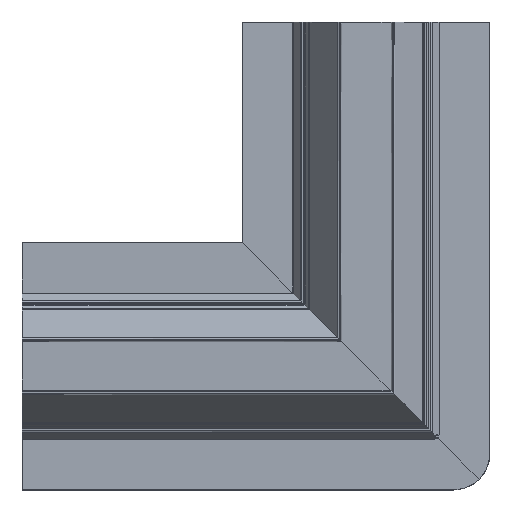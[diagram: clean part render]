
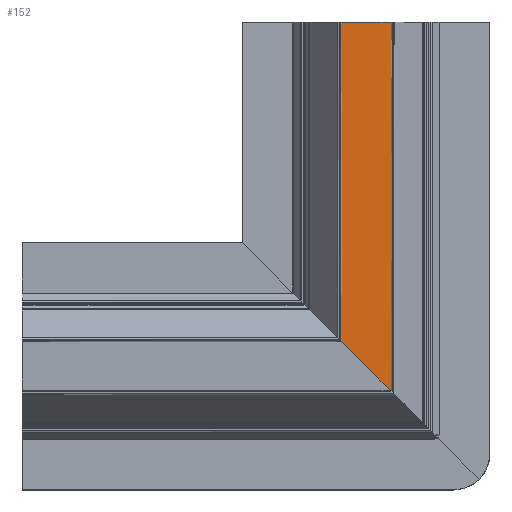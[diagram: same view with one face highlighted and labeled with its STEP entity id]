
A CAD part, top view. The second image highlights one B-rep face of the part: STEP entity #152.
In plain terms, the highlighted free-form (B-spline) face has degree [1, 1] with [2, 2] control points.
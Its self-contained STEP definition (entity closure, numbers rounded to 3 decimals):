
#152=ADVANCED_FACE('',(#328),#5574,.T.);
#328=FACE_OUTER_BOUND('',#504,.T.);
#504=EDGE_LOOP('',(#1228,#1229,#1230,#1231));
#1228=ORIENTED_EDGE('',*,*,#4946,.F.);
#1229=ORIENTED_EDGE('',*,*,#4719,.F.);
#1230=ORIENTED_EDGE('',*,*,#4947,.T.);
#1231=ORIENTED_EDGE('',*,*,#4823,.F.);
#1602=PCURVE('',#5515,#2458);
#1772=PCURVE('',#5535,#2628);
#2082=PCURVE('',#5573,#2938);
#2084=PCURVE('',#5574,#2940);
#2085=PCURVE('',#5574,#2941);
#2086=PCURVE('',#5574,#2942);
#2087=PCURVE('',#5574,#2943);
#2088=PCURVE('',#5575,#2944);
#2458=DEFINITIONAL_REPRESENTATION('',(#5184),#10737);
#2628=DEFINITIONAL_REPRESENTATION('',(#3503),#10737);
#2938=DEFINITIONAL_REPRESENTATION('',(#3923),#10737);
#2940=DEFINITIONAL_REPRESENTATION('',(#3925),#10737);
#2941=DEFINITIONAL_REPRESENTATION('',(#3926),#10737);
#2942=DEFINITIONAL_REPRESENTATION('',(#3928),#10737);
#2943=DEFINITIONAL_REPRESENTATION('',(#3929),#10737);
#2944=DEFINITIONAL_REPRESENTATION('',(#3930),#10737);
#3277=B_SPLINE_CURVE_WITH_KNOTS('',1,(#8043,#8044),.UNSPECIFIED.,.F.,.F.,
(2,2),(394.678,458.359),.UNSPECIFIED.);
#3502=B_SPLINE_CURVE_WITH_KNOTS('',1,(#8874,#8875),.UNSPECIFIED.,.F.,.F.,
(2,2),(207.782,261.28),.UNSPECIFIED.);
#3503=B_SPLINE_CURVE_WITH_KNOTS('',1,(#8876,#8877),.UNSPECIFIED.,.F.,.F.,
(2,2),(207.782,261.28),.UNSPECIFIED.);
#3922=B_SPLINE_CURVE_WITH_KNOTS('',1,(#10137,#10138),.UNSPECIFIED.,.F.,
 .F.,(2,2),(1462.8,1775.84),.UNSPECIFIED.);
#3923=B_SPLINE_CURVE_WITH_KNOTS('',1,(#10139,#10140),.UNSPECIFIED.,.F.,
 .F.,(2,2),(1462.8,1775.84),.UNSPECIFIED.);
#3925=B_SPLINE_CURVE_WITH_KNOTS('',1,(#10145,#10146),.UNSPECIFIED.,.F.,
 .F.,(2,2),(1462.8,1775.84),.UNSPECIFIED.);
#3926=B_SPLINE_CURVE_WITH_KNOTS('',1,(#10147,#10148),.UNSPECIFIED.,.F.,
 .F.,(2,2),(394.678,458.359),.UNSPECIFIED.);
#3927=B_SPLINE_CURVE_WITH_KNOTS('',1,(#10149,#10150),.UNSPECIFIED.,.F.,
 .F.,(2,2),(1462.8,1712.16),.UNSPECIFIED.);
#3928=B_SPLINE_CURVE_WITH_KNOTS('',1,(#10151,#10152),.UNSPECIFIED.,.F.,
 .F.,(2,2),(1462.8,1712.16),.UNSPECIFIED.);
#3929=B_SPLINE_CURVE_WITH_KNOTS('',1,(#10153,#10154),.UNSPECIFIED.,.F.,
 .F.,(2,2),(207.782,261.28),.UNSPECIFIED.);
#3930=B_SPLINE_CURVE_WITH_KNOTS('',1,(#10155,#10156),.UNSPECIFIED.,.F.,
 .F.,(2,2),(1462.8,1712.16),.UNSPECIFIED.);
#4291=SURFACE_CURVE('',#3277,(#1602,#2085),.PCURVE_S1.);
#4395=SURFACE_CURVE('',#3502,(#1772,#2087),.PCURVE_S1.);
#4518=SURFACE_CURVE('',#3922,(#2082,#2084),.PCURVE_S1.);
#4519=SURFACE_CURVE('',#3927,(#2086,#2088),.PCURVE_S1.);
#4719=EDGE_CURVE('',#5289,#5288,#4291,.T.);
#4823=EDGE_CURVE('',#5385,#5386,#4395,.T.);
#4946=EDGE_CURVE('',#5288,#5385,#4518,.T.);
#4947=EDGE_CURVE('',#5289,#5386,#4519,.T.);
#5184=(
BOUNDED_CURVE()
B_SPLINE_CURVE(2,(#8045,#8046,#8047),.UNSPECIFIED.,.F.,.F.)
B_SPLINE_CURVE_WITH_KNOTS((3,3),(394.678,458.359),
 .UNSPECIFIED.)
CURVE()
GEOMETRIC_REPRESENTATION_ITEM()
RATIONAL_B_SPLINE_CURVE((1.,1.,1.))
REPRESENTATION_ITEM('')
);
#5288=VERTEX_POINT('',#7176);
#5289=VERTEX_POINT('',#7177);
#5385=VERTEX_POINT('',#7273);
#5386=VERTEX_POINT('',#7274);
#5515=B_SPLINE_SURFACE_WITH_KNOTS('',1,1,((#6346,#6347),(#6348,#6349)),
 .UNSPECIFIED.,.F.,.F.,.F.,(2,2),(2,2),(-162.909,43.131),
(-37.8,3.),.UNSPECIFIED.);
#5535=B_SPLINE_SURFACE_WITH_KNOTS('',1,1,((#6528,#6529),(#6530,#6531)),
 .UNSPECIFIED.,.F.,.F.,.F.,(2,2),(2,2),(-707.4,-132.2),
(-31.84,31.84),.UNSPECIFIED.);
#5573=B_SPLINE_SURFACE_WITH_KNOTS('',1,1,((#6932,#6933),(#6934,#6935)),
 .UNSPECIFIED.,.F.,.F.,.F.,(2,2),(2,2),(-14.788,14.788),
(-707.4,-132.2),.UNSPECIFIED.);
#5574=B_SPLINE_SURFACE_WITH_KNOTS('',1,1,((#6936,#6937),(#6938,#6939)),
 .UNSPECIFIED.,.F.,.F.,.F.,(2,2),(2,2),(-31.84,31.84),
(-707.4,-132.2),.UNSPECIFIED.);
#5575=B_SPLINE_SURFACE_WITH_KNOTS('',1,1,((#6940,#6941),(#6942,#6943)),
 .UNSPECIFIED.,.F.,.F.,.F.,(2,2),(2,2),(-14.788,14.788),
(-707.4,-132.2),.UNSPECIFIED.);
#6346=CARTESIAN_POINT('',(10368.954,-4281.931,942.9));
#6347=CARTESIAN_POINT('',(10368.954,-4281.931,902.1));
#6348=CARTESIAN_POINT('',(10574.994,-4281.931,942.9));
#6349=CARTESIAN_POINT('',(10574.994,-4281.931,902.1));
#6528=CARTESIAN_POINT('',(9952.774,-4594.971,909.923));
#6529=CARTESIAN_POINT('',(9952.774,-4531.291,909.923));
#6530=CARTESIAN_POINT('',(10527.974,-4594.971,909.923));
#6531=CARTESIAN_POINT('',(10527.974,-4531.291,909.923));
#6932=CARTESIAN_POINT('',(10494.672,-4043.931,938.05));
#6933=CARTESIAN_POINT('',(10494.672,-4619.131,938.05));
#6934=CARTESIAN_POINT('',(10503.814,-4043.931,909.923));
#6935=CARTESIAN_POINT('',(10503.814,-4619.131,909.923));
#6936=CARTESIAN_POINT('',(10503.814,-4043.931,909.923));
#6937=CARTESIAN_POINT('',(10503.814,-4619.131,909.923));
#6938=CARTESIAN_POINT('',(10440.134,-4043.931,909.923));
#6939=CARTESIAN_POINT('',(10440.134,-4619.131,909.923));
#6940=CARTESIAN_POINT('',(10440.134,-4043.931,909.923));
#6941=CARTESIAN_POINT('',(10440.134,-4619.131,909.923));
#6942=CARTESIAN_POINT('',(10449.276,-4043.931,938.05));
#6943=CARTESIAN_POINT('',(10449.276,-4619.131,938.05));
#7176=CARTESIAN_POINT('',(10503.814,-4281.931,909.923));
#7177=CARTESIAN_POINT('',(10440.134,-4281.931,909.923));
#7273=CARTESIAN_POINT('',(10503.814,-4594.971,909.923));
#7274=CARTESIAN_POINT('',(10440.134,-4531.291,909.923));
#8043=CARTESIAN_POINT('',(10440.134,-4281.931,909.923));
#8044=CARTESIAN_POINT('',(10503.814,-4281.931,909.923));
#8045=CARTESIAN_POINT('',(-91.729,-4.823));
#8046=CARTESIAN_POINT('',(-59.889,-4.823));
#8047=CARTESIAN_POINT('',(-28.049,-4.823));
#8874=CARTESIAN_POINT('',(10503.814,-4594.971,909.923));
#8875=CARTESIAN_POINT('',(10440.134,-4531.291,909.923));
#8876=CARTESIAN_POINT('',(-156.36,-31.84));
#8877=CARTESIAN_POINT('',(-220.04,31.84));
#10137=CARTESIAN_POINT('',(10503.814,-4281.931,909.923));
#10138=CARTESIAN_POINT('',(10503.814,-4594.971,909.923));
#10139=CARTESIAN_POINT('',(14.788,-469.4));
#10140=CARTESIAN_POINT('',(14.788,-156.36));
#10145=CARTESIAN_POINT('',(-31.84,-469.4));
#10146=CARTESIAN_POINT('',(-31.84,-156.36));
#10147=CARTESIAN_POINT('',(31.84,-469.4));
#10148=CARTESIAN_POINT('',(-31.84,-469.4));
#10149=CARTESIAN_POINT('',(10440.134,-4281.931,909.923));
#10150=CARTESIAN_POINT('',(10440.134,-4531.291,909.923));
#10151=CARTESIAN_POINT('',(31.84,-469.4));
#10152=CARTESIAN_POINT('',(31.84,-220.04));
#10153=CARTESIAN_POINT('',(-31.84,-156.36));
#10154=CARTESIAN_POINT('',(31.84,-220.04));
#10155=CARTESIAN_POINT('',(-14.788,-469.4));
#10156=CARTESIAN_POINT('',(-14.788,-220.04));
#10737=(
GEOMETRIC_REPRESENTATION_CONTEXT(2)
PARAMETRIC_REPRESENTATION_CONTEXT()
REPRESENTATION_CONTEXT('pspace','')
);
